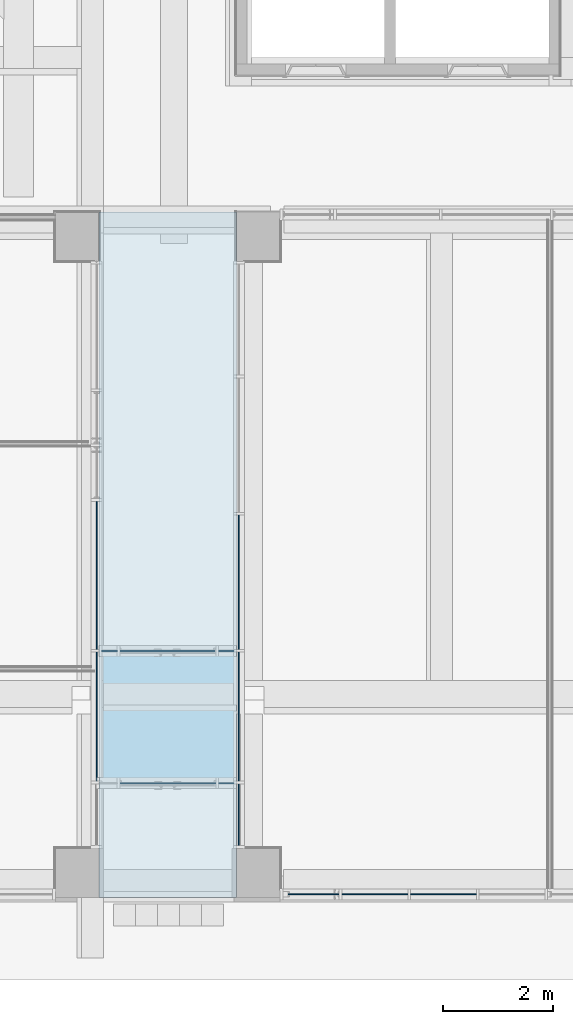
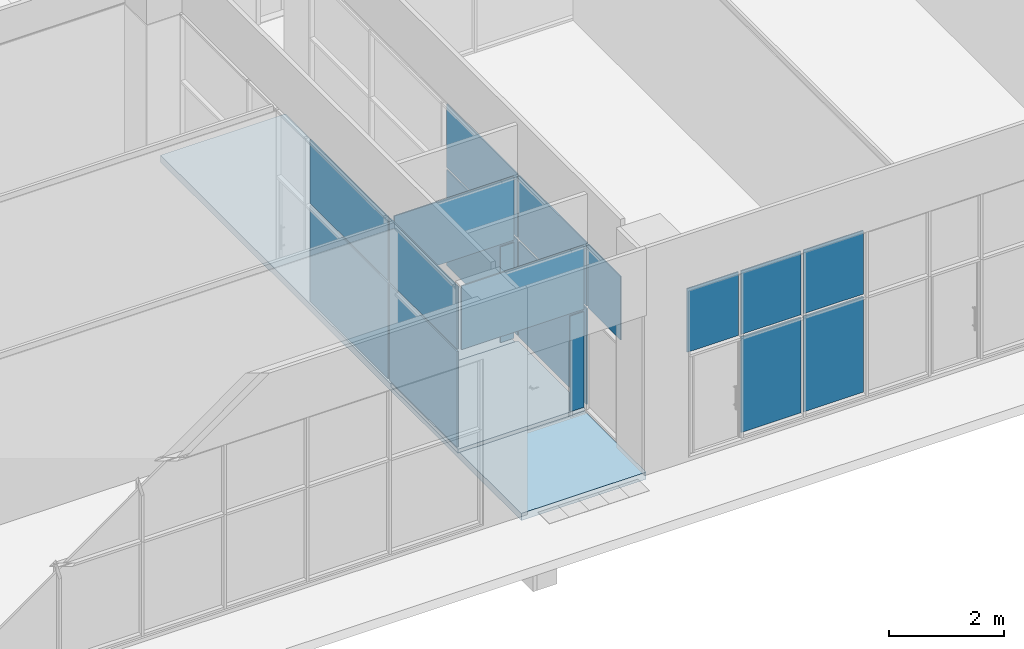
# One storey, part 22 of 100: 19 plates, 2 slabs, 5 elements without a shape of their own.
"""IFC2X3 building model written with IfcOpenShell, lengths in millimetres."""

from ifc_helpers import new_model, entity, si_unit, converted_unit, derived_unit, direction, frame, frame_2d, origin, origin_2d_with_axis, place, context, subcontext, project, spatial, rectangle, extrude, source, transform, mapped, material, layer, layer_set, layer_usage, type_object, type_shapes, element, aggregate, save


model = new_model("IFC2X3")

# Units and contexts
model_context = context("Model", 3, precision=0.01, world=origin(), true_north=direction((6.123031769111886e-17, 1.0)))
body_context = subcontext(model_context, "Body", "Model", "MODEL_VIEW")
ifc_project = project(units=[si_unit("LENGTHUNIT", "METRE", prefix="MILLI"), si_unit("AREAUNIT", "SQUARE_METRE"), si_unit("VOLUMEUNIT", "CUBIC_METRE"), converted_unit("PLANEANGLEUNIT", "DEGREE", entity("IfcRatioMeasure", 0.017453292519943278), si_unit("PLANEANGLEUNIT", "RADIAN"), dimensions=[0, 0, 0, 0, 0, 0, 0]), si_unit("MASSUNIT", "GRAM", prefix="KILO"), derived_unit("MASSDENSITYUNIT", [(si_unit("MASSUNIT", "GRAM", prefix="KILO"), 1), (si_unit("LENGTHUNIT", "METRE"), -3)]), derived_unit("MOMENTOFINERTIAUNIT", [(si_unit("LENGTHUNIT", "METRE"), 4)]), si_unit("TIMEUNIT", "SECOND"), si_unit("FREQUENCYUNIT", "HERTZ"), si_unit("THERMODYNAMICTEMPERATUREUNIT", "DEGREE_CELSIUS"), derived_unit("THERMALTRANSMITTANCEUNIT", [(si_unit("MASSUNIT", "GRAM", prefix="KILO"), 1), (si_unit("THERMODYNAMICTEMPERATUREUNIT", "KELVIN"), -1), (si_unit("TIMEUNIT", "SECOND"), -3)]), derived_unit("VOLUMETRICFLOWRATEUNIT", [(si_unit("LENGTHUNIT", "METRE"), 3), (si_unit("TIMEUNIT", "SECOND"), -1)]), derived_unit("MASSFLOWRATEUNIT", [(si_unit("MASSUNIT", "GRAM", prefix="KILO"), 1), (si_unit("TIMEUNIT", "SECOND"), -1)]), derived_unit("ROTATIONALFREQUENCYUNIT", [(si_unit("TIMEUNIT", "SECOND"), -1)]), si_unit("ELECTRICCURRENTUNIT", "AMPERE"), si_unit("ELECTRICVOLTAGEUNIT", "VOLT"), si_unit("POWERUNIT", "WATT"), si_unit("FORCEUNIT", "NEWTON", prefix="KILO"), si_unit("ILLUMINANCEUNIT", "LUX"), si_unit("LUMINOUSFLUXUNIT", "LUMEN"), si_unit("LUMINOUSINTENSITYUNIT", "CANDELA"), derived_unit("USERDEFINED", [(si_unit("MASSUNIT", "GRAM", prefix="KILO"), -1), (si_unit("LENGTHUNIT", "METRE"), -2), (si_unit("TIMEUNIT", "SECOND"), 3), (si_unit("LUMINOUSFLUXUNIT", "LUMEN"), 1)]), derived_unit("SOUNDPOWERUNIT", [(si_unit("MASSUNIT", "GRAM", prefix="KILO"), 1), (si_unit("LENGTHUNIT", "METRE"), 2), (si_unit("TIMEUNIT", "SECOND"), -3)]), derived_unit("SOUNDPRESSUREUNIT", [(si_unit("MASSUNIT", "GRAM", prefix="KILO"), 1), (si_unit("LENGTHUNIT", "METRE"), -1), (si_unit("TIMEUNIT", "SECOND"), -2)]), derived_unit("LINEARVELOCITYUNIT", [(si_unit("LENGTHUNIT", "METRE"), 1), (si_unit("TIMEUNIT", "SECOND"), -1)]), si_unit("PRESSUREUNIT", "PASCAL"), derived_unit("USERDEFINED", [(si_unit("LENGTHUNIT", "METRE"), -2), (si_unit("MASSUNIT", "GRAM", prefix="KILO"), 1), (si_unit("TIMEUNIT", "SECOND"), -2)]), derived_unit("LINEARFORCEUNIT", [(si_unit("MASSUNIT", "GRAM", prefix="KILO"), 1), (si_unit("LENGTHUNIT", "METRE"), 1), (si_unit("TIMEUNIT", "SECOND"), -2), (si_unit("LENGTHUNIT", "METRE"), -1)]), derived_unit("PLANARFORCEUNIT", [(si_unit("MASSUNIT", "GRAM", prefix="KILO"), 1), (si_unit("LENGTHUNIT", "METRE"), 1), (si_unit("TIMEUNIT", "SECOND"), -2), (si_unit("LENGTHUNIT", "METRE"), -2)])], contexts=[model_context])

# Site, building, storey
site_placement = place(None, frame((-14167.972527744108, -657.2125860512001, 0.0)))
site = spatial("IfcSite", under=ifc_project, at=site_placement, Name="Default", CompositionType="ELEMENT")
building_placement = place(site_placement, origin())
building = spatial("IfcBuilding", under=site, at=building_placement, Name="Sample Building", CompositionType="ELEMENT")
storey_placement = place(building_placement, origin())
storey = spatial("IfcBuildingStorey", under=building, at=storey_placement, Name="지상 1층", CompositionType="ELEMENT", Elevation=0.0)

# Slabs
ifc_material_1 = material(Name="KBIMS-콘크리트")
ifc_layer_1 = layer(ifc_material_1, 150.0)
ifc_layer_set_1 = layer_set([ifc_layer_1], Name="바닥:SL111-철근콘크리트구조 바닥 150mm_S3")
ifc_layer_usage_1 = layer_usage(ifc_layer_set_1, "AXIS3", "POSITIVE", 0.0)
slab_type_1 = type_object("IfcSlabType", Name="바닥:SL111-철근콘크리트구조 바닥 150mm_S3", PredefinedType="FLOOR", material=ifc_layer_set_1)
slab_1_placement = place(storey_placement, origin())
element("IfcSlab", 1, at=slab_1_placement, inside=storey, type_object=slab_type_1, material=ifc_layer_usage_1, Name="바닥:SL111-철근콘크리트구조 바닥 150mm_S3", ObjectType="바닥:SL111-철근콘크리트구조 바닥 150mm_S3", PredefinedType="FLOOR", context=body_context, shape_type="SweptSolid", body=[
    extrude(rectangle(XDim=12499.999678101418, YDim=2499.999999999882, at=frame_2d((1.1823431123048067e-11, 0.0), x_axis=(1.0, 0.0))), frame((28817.955105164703, 6807.212456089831, 0.0), z_axis=(0.0, 0.0, -1.0), x_axis=(0.0, 1.0, 0.0)), (0.0, 0.0, 1.0), 150.0),
])
ifc_material_2 = material(Name="SL312-화강석물갈기 바닥 (바탕30mm, 마감30mm)")
ifc_layer_2 = layer(ifc_material_2, 80.0)
ifc_layer_set_2 = layer_set([ifc_layer_2], Name="바닥:A1-15-01B-화강석(물갈기) (80mm)")
ifc_layer_usage_2 = layer_usage(ifc_layer_set_2, "AXIS3", "POSITIVE", 0.0)
slab_type_2 = type_object("IfcSlabType", Name="바닥:A1-15-01B-화강석(물갈기) (80mm)", PredefinedType="FLOOR", material=ifc_layer_set_2)
slab_2_placement = place(storey_placement, origin())
element("IfcSlab", 2, at=slab_2_placement, inside=storey, type_object=slab_type_2, material=ifc_layer_usage_2, Name="바닥:A1-15-01B-화강석(물갈기) (80mm)", ObjectType="바닥:A1-15-01B-화강석(물갈기) (80mm)", PredefinedType="FLOOR", context=body_context, shape_type="SweptSolid", body=[
    extrude(rectangle(XDim=2316.99999999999, YDim=2536.97479061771, at=frame_2d((-2.2737367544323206e-13, 0.0), x_axis=(1.0, 0.0))), frame((28799.467709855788, 3848.677624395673, 80.0), z_axis=(0.0, 0.0, -1.0), x_axis=(0.0, 1.0, 0.0)), (0.0, 0.0, 1.0), 80.0),
])

# Curtain wall, plates
curtain_wall_type = type_object("IfcCurtainWallType", Name="커튼월:CW112-스테인리스 스틸 커튼월", PredefinedType="NOTDEFINED")
curtain_wall_1_placement = place(storey_placement, origin())
curtain_wall_1 = element("IfcCurtainWall", 3, at=curtain_wall_1_placement, inside=storey, type_object=curtain_wall_type, Name="커튼월:CW112-스테인리스 스틸 커튼월", ObjectType="커튼월:CW112-스테인리스 스틸 커튼월")
ifc_material_3 = material(Name="KBIMS-로이유리(코팅)")
plate_type_1 = type_object("IfcPlateType", Name="CW300-THK24.Low-e coating glass:CW300-THK24.Low-e coating glass", PredefinedType="CURTAIN_PANEL", material=ifc_material_3)
shared_shape_1 = source(origin(), body_context, "Body", "SweptSolid", [
    extrude(rectangle(XDim=1200.000000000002, YDim=24.000000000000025, at=origin_2d_with_axis()), frame((0.0, 0.0, 0.0), z_axis=(0.0, 0.0, 1.0), x_axis=(-1.0, 0.0, 0.0)), (0.0, 0.0, 1.0), 2024.9999999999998),
])
type_shapes(plate_type_1, [shared_shape_1])
plate_1_placement = place(curtain_wall_1_placement, frame((32592.972491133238, 619.7122951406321, 130.0)))
plate_1 = element("IfcPlate", 4, at=plate_1_placement, type_object=plate_type_1, material=ifc_material_3, Name="CW300-THK24.Low-e coating glass:CW300-THK24.Low-e coating glass", ObjectType="CW300-THK24.Low-e coating glass:CW300-THK24.Low-e coating glass", context=body_context, shape_type="MappedRepresentation", body=[
    mapped(shared_shape_1, transform((0.0, 0.0, 0.0), scale=1.0)),
])
plate_2_placement = place(curtain_wall_1_placement, frame((33842.97249113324, 619.712295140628, 130.0)))
plate_2 = element("IfcPlate", 5, at=plate_2_placement, type_object=plate_type_1, material=ifc_material_3, Name="CW300-THK24.Low-e coating glass:CW300-THK24.Low-e coating glass", ObjectType="CW300-THK24.Low-e coating glass:CW300-THK24.Low-e coating glass", context=body_context, shape_type="MappedRepresentation", body=[
    mapped(shared_shape_1, transform((0.0, 0.0, 0.0), scale=1.0)),
])
plate_type_2 = type_object("IfcPlateType", Name="CW300-THK24.Low-e coating glass:CW300-THK24.Low-e coating glass", PredefinedType="CURTAIN_PANEL", material=ifc_material_3)
shared_shape_2 = source(origin(), body_context, "Body", "SweptSolid", [
    extrude(rectangle(XDim=1024.9999999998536, YDim=24.000000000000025, at=origin_2d_with_axis()), frame((0.0, 0.0, 0.0), z_axis=(0.0, 0.0, 1.0), x_axis=(-1.0, 0.0, 0.0)), (0.0, 0.0, 1.0), 1345.000000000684),
])
type_shapes(plate_type_2, [shared_shape_2])
plate_3_placement = place(curtain_wall_1_placement, frame((31430.472491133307, 619.7122951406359, 2205.0)))
plate_3 = element("IfcPlate", 6, at=plate_3_placement, type_object=plate_type_2, material=ifc_material_3, Name="CW300-THK24.Low-e coating glass:CW300-THK24.Low-e coating glass", ObjectType="CW300-THK24.Low-e coating glass:CW300-THK24.Low-e coating glass", context=body_context, shape_type="MappedRepresentation", body=[
    mapped(shared_shape_2, transform((0.0, 0.0, 0.0), scale=1.0)),
])
plate_type_3 = type_object("IfcPlateType", Name="CW300-THK24.Low-e coating glass:CW300-THK24.Low-e coating glass", PredefinedType="CURTAIN_PANEL", material=ifc_material_3)
shared_shape_3 = source(origin(), body_context, "Body", "SweptSolid", [
    extrude(rectangle(XDim=1200.000000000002, YDim=24.000000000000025, at=origin_2d_with_axis()), frame((0.0, 0.0, 0.0), z_axis=(0.0, 0.0, 1.0), x_axis=(-1.0, 0.0, 0.0)), (0.0, 0.0, 1.0), 1345.000000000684),
])
type_shapes(plate_type_3, [shared_shape_3])
plate_4_placement = place(curtain_wall_1_placement, frame((32592.972491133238, 619.7122951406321, 2205.0)))
plate_4 = element("IfcPlate", 7, at=plate_4_placement, type_object=plate_type_3, material=ifc_material_3, Name="CW300-THK24.Low-e coating glass:CW300-THK24.Low-e coating glass", ObjectType="CW300-THK24.Low-e coating glass:CW300-THK24.Low-e coating glass", context=body_context, shape_type="MappedRepresentation", body=[
    mapped(shared_shape_3, transform((0.0, 0.0, 0.0), scale=1.0)),
])
plate_5_placement = place(curtain_wall_1_placement, frame((33842.97249113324, 619.712295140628, 2205.0)))
plate_5 = element("IfcPlate", 8, at=plate_5_placement, type_object=plate_type_3, material=ifc_material_3, Name="CW300-THK24.Low-e coating glass:CW300-THK24.Low-e coating glass", ObjectType="CW300-THK24.Low-e coating glass:CW300-THK24.Low-e coating glass", context=body_context, shape_type="MappedRepresentation", body=[
    mapped(shared_shape_3, transform((0.0, 0.0, 0.0), scale=1.0)),
])
aggregate(curtain_wall_1, [plate_1, plate_2, plate_3, plate_4, plate_5])

# Curtain wall, plate
curtain_wall_2_placement = place(storey_placement, origin())
curtain_wall_2 = element("IfcCurtainWall", 9, at=curtain_wall_2_placement, inside=storey, type_object=curtain_wall_type, Name="커튼월:CW112-스테인리스 스틸 커튼월", ObjectType="커튼월:CW112-스테인리스 스틸 커튼월")
plate_type_4 = type_object("IfcPlateType", Name="CW300-THK24.Low-e coating glass:CW300-THK24.Low-e coating glass", PredefinedType="CURTAIN_PANEL", material=ifc_material_3)
shared_shape_4 = source(origin(), body_context, "Body", "SweptSolid", [
    extrude(rectangle(XDim=274.8995756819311, YDim=24.000000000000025, at=origin_2d_with_axis()), frame((0.0, 0.0, 0.0), z_axis=(0.0, 0.0, 1.0), x_axis=(-1.0, 0.0, 0.0)), (0.0, 0.0, 1.0), 2024.9999999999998),
])
type_shapes(plate_type_4, [shared_shape_4])
plate_6_placement = place(curtain_wall_2_placement, frame((29880.522703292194, 5057.177624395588, 130.0), z_axis=(0.0, 0.0, 1.0), x_axis=(-1.0, 0.0, 0.0)))
plate_6 = element("IfcPlate", 10, at=plate_6_placement, type_object=plate_type_4, material=ifc_material_3, Name="CW300-THK24.Low-e coating glass:CW300-THK24.Low-e coating glass", ObjectType="CW300-THK24.Low-e coating glass:CW300-THK24.Low-e coating glass", context=body_context, shape_type="MappedRepresentation", body=[
    mapped(shared_shape_4, transform((0.0, 0.0, 0.0), scale=1.0)),
])

curtain_wall_3_placement = place(storey_placement, origin())
curtain_wall_3 = element("IfcCurtainWall", 11, at=curtain_wall_3_placement, inside=storey, type_object=curtain_wall_type, Name="커튼월:CW112-스테인리스 스틸 커튼월", ObjectType="커튼월:CW112-스테인리스 스틸 커튼월")
plate_7_placement = place(curtain_wall_3_placement, frame((29880.52270329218, 2645.1776243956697, 130.0), z_axis=(0.0, 0.0, 1.0), x_axis=(-1.0, 0.0, 0.0)))
plate_7 = element("IfcPlate", 12, at=plate_7_placement, type_object=plate_type_4, material=ifc_material_3, Name="CW300-THK24.Low-e coating glass:CW300-THK24.Low-e coating glass", ObjectType="CW300-THK24.Low-e coating glass:CW300-THK24.Low-e coating glass", context=body_context, shape_type="MappedRepresentation", body=[
    mapped(shared_shape_4, transform((0.0, 0.0, 0.0), scale=1.0)),
])

# Plate
plate_type_5 = type_object("IfcPlateType", Name="CW300-THK24.Low-e coating glass:CW300-THK24.Low-e coating glass", PredefinedType="CURTAIN_PANEL", material=ifc_material_3)
shared_shape_5 = source(origin(), body_context, "Body", "SweptSolid", [
    extrude(rectangle(XDim=275.11777367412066, YDim=24.000000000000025, at=origin_2d_with_axis()), frame((0.0, 0.0, 0.0), z_axis=(0.0, 0.0, 1.0), x_axis=(-1.0, 0.0, 0.0)), (0.0, 0.0, 1.0), 2025.0000000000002),
])
type_shapes(plate_type_5, [shared_shape_5])
plate_8_placement = place(curtain_wall_2_placement, frame((27755.514028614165, 5057.177624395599, 130.0), z_axis=(0.0, 0.0, 1.0), x_axis=(-1.0, 0.0, 0.0)))
plate_8 = element("IfcPlate", 13, at=plate_8_placement, type_object=plate_type_5, material=ifc_material_3, Name="CW300-THK24.Low-e coating glass:CW300-THK24.Low-e coating glass", ObjectType="CW300-THK24.Low-e coating glass:CW300-THK24.Low-e coating glass", context=body_context, shape_type="MappedRepresentation", body=[
    mapped(shared_shape_5, transform((0.0, 0.0, 0.0), scale=1.0)),
])

plate_type_6 = type_object("IfcPlateType", Name="CW300-THK24.Low-e coating glass:CW300-THK24.Low-e coating glass", PredefinedType="CURTAIN_PANEL", material=ifc_material_3)
shared_shape_6 = source(origin(), body_context, "Body", "SweptSolid", [
    extrude(rectangle(XDim=2400.0173493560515, YDim=24.000000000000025, at=origin_2d_with_axis()), frame((0.0, 0.0, 0.0), z_axis=(0.0, 0.0, 1.0), x_axis=(-1.0, 0.0, 0.0)), (0.0, 0.0, 1.0), 1345.000000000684),
])
type_shapes(plate_type_6, [shared_shape_6])
plate_9_placement = place(curtain_wall_2_placement, frame((28817.96381645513, 5057.177624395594, 2205.0), z_axis=(0.0, 0.0, 1.0), x_axis=(-1.0, 0.0, 0.0)))
plate_9 = element("IfcPlate", 14, at=plate_9_placement, type_object=plate_type_6, material=ifc_material_3, Name="CW300-THK24.Low-e coating glass:CW300-THK24.Low-e coating glass", ObjectType="CW300-THK24.Low-e coating glass:CW300-THK24.Low-e coating glass", context=body_context, shape_type="MappedRepresentation", body=[
    mapped(shared_shape_6, transform((0.0, 0.0, 0.0), scale=1.0)),
])

aggregate(curtain_wall_2, [plate_6, plate_8, plate_9])

# Curtain wall, plate
curtain_wall_4_placement = place(storey_placement, origin())
curtain_wall_4 = element("IfcCurtainWall", 15, at=curtain_wall_4_placement, inside=storey, type_object=curtain_wall_type, Name="커튼월:CW112-스테인리스 스틸 커튼월", ObjectType="커튼월:CW112-스테인리스 스틸 커튼월")
plate_type_7 = type_object("IfcPlateType", Name="CW300-THK24.Low-e coating glass:CW300-THK24.Low-e coating glass", PredefinedType="CURTAIN_PANEL", material=ifc_material_3)
shared_shape_7 = source(origin(), body_context, "Body", "SweptSolid", [
    extrude(rectangle(XDim=2350.000000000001, YDim=24.000000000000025, at=origin_2d_with_axis()), frame((0.0, 0.0, 0.0), z_axis=(0.0, 0.0, 1.0), x_axis=(-1.0, 0.0, 0.0)), (0.0, 0.0, 1.0), 2024.9999999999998),
])
type_shapes(plate_type_7, [shared_shape_7])
plate_10_placement = place(curtain_wall_4_placement, frame((27522.955141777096, 3857.2123307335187, 130.0), z_axis=(0.0, 0.0, 1.0), x_axis=(0.0, 1.0, 0.0)))
plate_10 = element("IfcPlate", 16, at=plate_10_placement, type_object=plate_type_7, material=ifc_material_3, Name="CW300-THK24.Low-e coating glass:CW300-THK24.Low-e coating glass", ObjectType="CW300-THK24.Low-e coating glass:CW300-THK24.Low-e coating glass", context=body_context, shape_type="MappedRepresentation", body=[
    mapped(shared_shape_7, transform((0.0, 0.0, 0.0), scale=1.0)),
])

curtain_wall_5_placement = place(storey_placement, origin())
curtain_wall_5 = element("IfcCurtainWall", 17, at=curtain_wall_5_placement, inside=storey, type_object=curtain_wall_type, Name="커튼월:CW112-스테인리스 스틸 커튼월", ObjectType="커튼월:CW112-스테인리스 스틸 커튼월")
plate_11_placement = place(curtain_wall_5_placement, frame((30112.972491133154, 3857.2123307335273, 130.0), z_axis=(0.0, 0.0, 1.0), x_axis=(0.0, -1.0, 0.0)))
plate_11 = element("IfcPlate", 18, at=plate_11_placement, type_object=plate_type_7, material=ifc_material_3, Name="CW300-THK24.Low-e coating glass:CW300-THK24.Low-e coating glass", ObjectType="CW300-THK24.Low-e coating glass:CW300-THK24.Low-e coating glass", context=body_context, shape_type="MappedRepresentation", body=[
    mapped(shared_shape_7, transform((0.0, 0.0, 0.0), scale=1.0)),
])

# Plate
plate_type_8 = type_object("IfcPlateType", Name="CW300-THK24.Low-e coating glass:CW300-THK24.Low-e coating glass", PredefinedType="CURTAIN_PANEL", material=ifc_material_3)
shared_shape_8 = source(origin(), body_context, "Body", "SweptSolid", [
    extrude(rectangle(XDim=2700.0, YDim=24.000000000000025, at=origin_2d_with_axis()), frame((0.0, 0.0, 0.0), z_axis=(0.0, 0.0, 1.0), x_axis=(-1.0, 0.0, 0.0)), (0.0, 0.0, 1.0), 2024.9999999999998),
])
type_shapes(plate_type_8, [shared_shape_8])
plate_12_placement = place(curtain_wall_4_placement, frame((27522.955141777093, 6432.212330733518, 130.0), z_axis=(0.0, 0.0, 1.0), x_axis=(0.0, 1.0, 0.0)))
plate_12 = element("IfcPlate", 19, at=plate_12_placement, type_object=plate_type_8, material=ifc_material_3, Name="CW300-THK24.Low-e coating glass:CW300-THK24.Low-e coating glass", ObjectType="CW300-THK24.Low-e coating glass:CW300-THK24.Low-e coating glass", context=body_context, shape_type="MappedRepresentation", body=[
    mapped(shared_shape_8, transform((0.0, 0.0, 0.0), scale=1.0)),
])

plate_type_9 = type_object("IfcPlateType", Name="CW300-THK24.Low-e coating glass:CW300-THK24.Low-e coating glass", PredefinedType="CURTAIN_PANEL", material=ifc_material_3)
shared_shape_9 = source(origin(), body_context, "Body", "SweptSolid", [
    extrude(rectangle(XDim=2350.000000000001, YDim=24.000000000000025, at=origin_2d_with_axis()), frame((0.0, 0.0, 0.0), z_axis=(0.0, 0.0, 1.0), x_axis=(-1.0, 0.0, 0.0)), (0.0, 0.0, 1.0), 1345.000000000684),
])
type_shapes(plate_type_9, [shared_shape_9])
plate_13_placement = place(curtain_wall_4_placement, frame((27522.955141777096, 3857.212330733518, 2205.0), z_axis=(0.0, 0.0, 1.0), x_axis=(0.0, 1.0, 0.0)))
plate_13 = element("IfcPlate", 20, at=plate_13_placement, type_object=plate_type_9, material=ifc_material_3, Name="CW300-THK24.Low-e coating glass:CW300-THK24.Low-e coating glass", ObjectType="CW300-THK24.Low-e coating glass:CW300-THK24.Low-e coating glass", context=body_context, shape_type="MappedRepresentation", body=[
    mapped(shared_shape_9, transform((0.0, 0.0, 0.0), scale=1.0)),
])

plate_14_placement = place(curtain_wall_5_placement, frame((30112.972491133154, 3857.2123307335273, 2205.0), z_axis=(0.0, 0.0, 1.0), x_axis=(0.0, -1.0, 0.0)))
plate_14 = element("IfcPlate", 21, at=plate_14_placement, type_object=plate_type_9, material=ifc_material_3, Name="CW300-THK24.Low-e coating glass:CW300-THK24.Low-e coating glass", ObjectType="CW300-THK24.Low-e coating glass:CW300-THK24.Low-e coating glass", context=body_context, shape_type="MappedRepresentation", body=[
    mapped(shared_shape_9, transform((0.0, 0.0, 0.0), scale=1.0)),
])

plate_type_10 = type_object("IfcPlateType", Name="CW300-THK24.Low-e coating glass:CW300-THK24.Low-e coating glass", PredefinedType="CURTAIN_PANEL", material=ifc_material_3)
shared_shape_10 = source(origin(), body_context, "Body", "SweptSolid", [
    extrude(rectangle(XDim=2700.0, YDim=24.000000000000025, at=origin_2d_with_axis()), frame((0.0, 0.0, 0.0), z_axis=(0.0, 0.0, 1.0), x_axis=(-1.0, 0.0, 0.0)), (0.0, 0.0, 1.0), 1345.000000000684),
])
type_shapes(plate_type_10, [shared_shape_10])
plate_15_placement = place(curtain_wall_4_placement, frame((27522.955141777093, 6432.212330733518, 2205.0), z_axis=(0.0, 0.0, 1.0), x_axis=(0.0, 1.0, 0.0)))
plate_15 = element("IfcPlate", 22, at=plate_15_placement, type_object=plate_type_10, material=ifc_material_3, Name="CW300-THK24.Low-e coating glass:CW300-THK24.Low-e coating glass", ObjectType="CW300-THK24.Low-e coating glass:CW300-THK24.Low-e coating glass", context=body_context, shape_type="MappedRepresentation", body=[
    mapped(shared_shape_10, transform((0.0, 0.0, 0.0), scale=1.0)),
])

aggregate(curtain_wall_4, [plate_10, plate_12, plate_13, plate_15])

plate_type_11 = type_object("IfcPlateType", Name="CW300-THK24.Low-e coating glass:CW300-THK24.Low-e coating glass", PredefinedType="CURTAIN_PANEL", material=ifc_material_3)
shared_shape_11 = source(origin(), body_context, "Body", "SweptSolid", [
    extrude(rectangle(XDim=2449.9999999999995, YDim=24.000000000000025, at=origin_2d_with_axis()), frame((0.0, 0.0, 0.0), z_axis=(0.0, 0.0, 1.0), x_axis=(-1.0, 0.0, 0.0)), (0.0, 0.0, 1.0), 2024.9999999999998),
])
type_shapes(plate_type_11, [shared_shape_11])
plate_16_placement = place(curtain_wall_5_placement, frame((30112.97249113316, 6307.21233073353, 130.0), z_axis=(0.0, 0.0, 1.0), x_axis=(0.0, -1.0, 0.0)))
plate_16 = element("IfcPlate", 23, at=plate_16_placement, type_object=plate_type_11, material=ifc_material_3, Name="CW300-THK24.Low-e coating glass:CW300-THK24.Low-e coating glass", ObjectType="CW300-THK24.Low-e coating glass:CW300-THK24.Low-e coating glass", context=body_context, shape_type="MappedRepresentation", body=[
    mapped(shared_shape_11, transform((0.0, 0.0, 0.0), scale=1.0)),
])

plate_type_12 = type_object("IfcPlateType", Name="CW300-THK24.Low-e coating glass:CW300-THK24.Low-e coating glass", PredefinedType="CURTAIN_PANEL", material=ifc_material_3)
shared_shape_12 = source(origin(), body_context, "Body", "SweptSolid", [
    extrude(rectangle(XDim=2450.000000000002, YDim=24.000000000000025, at=origin_2d_with_axis()), frame((0.0, 0.0, 0.0), z_axis=(0.0, 0.0, 1.0), x_axis=(-1.0, 0.0, 0.0)), (0.0, 0.0, 1.0), 1345.000000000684),
])
type_shapes(plate_type_12, [shared_shape_12])
plate_17_placement = place(curtain_wall_5_placement, frame((30112.97249113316, 6307.21233073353, 2205.0), z_axis=(0.0, 0.0, 1.0), x_axis=(0.0, -1.0, 0.0)))
plate_17 = element("IfcPlate", 24, at=plate_17_placement, type_object=plate_type_12, material=ifc_material_3, Name="CW300-THK24.Low-e coating glass:CW300-THK24.Low-e coating glass", ObjectType="CW300-THK24.Low-e coating glass:CW300-THK24.Low-e coating glass", context=body_context, shape_type="MappedRepresentation", body=[
    mapped(shared_shape_12, transform((0.0, 0.0, 0.0), scale=1.0)),
])

plate_type_13 = type_object("IfcPlateType", Name="CW300-THK24.Low-e coating glass:CW300-THK24.Low-e coating glass", PredefinedType="CURTAIN_PANEL", material=ifc_material_3)
shared_shape_13 = source(origin(), body_context, "Body", "SweptSolid", [
    extrude(rectangle(XDim=1125.000022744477, YDim=24.000000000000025, at=origin_2d_with_axis()), frame((0.0, 0.0, 0.0), z_axis=(0.0, 0.0, 1.0), x_axis=(-1.0, 0.0, 0.0)), (0.0, 0.0, 1.0), 1345.0000000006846),
])
type_shapes(plate_type_13, [shared_shape_13])
plate_18_placement = place(curtain_wall_5_placement, frame((30112.97249113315, 2069.7123193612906, 2205.0), z_axis=(0.0, 0.0, 1.0), x_axis=(0.0, -1.0, 0.0)))
plate_18 = element("IfcPlate", 25, at=plate_18_placement, type_object=plate_type_13, material=ifc_material_3, Name="CW300-THK24.Low-e coating glass:CW300-THK24.Low-e coating glass", ObjectType="CW300-THK24.Low-e coating glass:CW300-THK24.Low-e coating glass", context=body_context, shape_type="MappedRepresentation", body=[
    mapped(shared_shape_13, transform((0.0, 0.0, 0.0), scale=1.0)),
])

aggregate(curtain_wall_5, [plate_16, plate_11, plate_17, plate_14, plate_18])

plate_type_14 = type_object("IfcPlateType", Name="CW300-THK24.Low-e coating glass:CW300-THK24.Low-e coating glass", PredefinedType="CURTAIN_PANEL", material=ifc_material_3)
shared_shape_14 = source(origin(), body_context, "Body", "SweptSolid", [
    extrude(rectangle(XDim=2445.017349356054, YDim=24.000000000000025, at=origin_2d_with_axis()), frame((0.0, 0.0, 0.0), z_axis=(0.0, 0.0, 1.0), x_axis=(-1.0, 0.0, 0.0)), (0.0, 0.0, 1.0), 1345.000000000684),
])
type_shapes(plate_type_14, [shared_shape_14])
plate_19_placement = place(curtain_wall_3_placement, frame((28795.46381645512, 2645.177624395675, 2205.0), z_axis=(0.0, 0.0, 1.0), x_axis=(-1.0, 0.0, 0.0)))
plate_19 = element("IfcPlate", 26, at=plate_19_placement, type_object=plate_type_14, material=ifc_material_3, Name="CW300-THK24.Low-e coating glass:CW300-THK24.Low-e coating glass", ObjectType="CW300-THK24.Low-e coating glass:CW300-THK24.Low-e coating glass", context=body_context, shape_type="MappedRepresentation", body=[
    mapped(shared_shape_14, transform((0.0, 0.0, 0.0), scale=1.0)),
])

aggregate(curtain_wall_3, [plate_7, plate_19])

save(model, "model.ifc")
